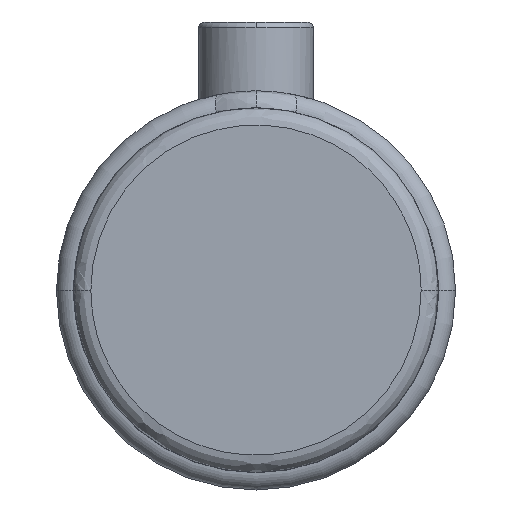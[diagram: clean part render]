
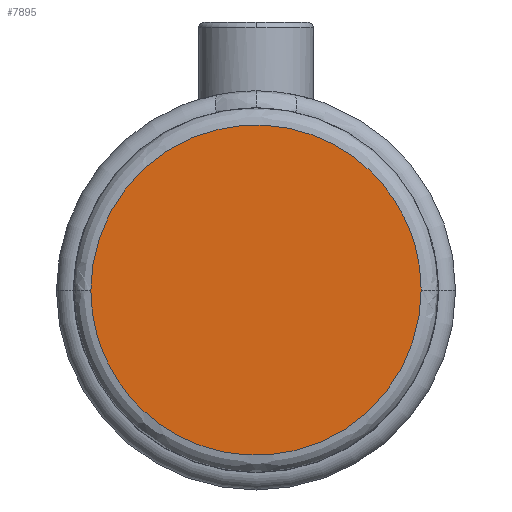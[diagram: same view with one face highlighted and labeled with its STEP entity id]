
A CAD part, top view. The second image highlights one B-rep face of the part: STEP entity #7895.
In plain terms, the highlighted planar face has unit normal (0, 0, 1).
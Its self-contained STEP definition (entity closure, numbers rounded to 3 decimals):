
#631 = CARTESIAN_POINT ( 'NONE',  ( 0., 15.875, 38. ) ) ;
#980 = EDGE_CURVE ( 'NONE', #6143, #7690, #8953, .T. ) ;
#1358 = CARTESIAN_POINT ( 'NONE',  ( -28.75, 57.5, 38. ) ) ;
#1379 = DIRECTION ( 'NONE',  ( 0., 0., 1. ) ) ;
#3132 = CARTESIAN_POINT ( 'NONE',  ( 28.75, 0., 38. ) ) ;
#3236 = CARTESIAN_POINT ( 'NONE',  ( -28.75, -57.5, 38. ) ) ;
#3515 = EDGE_CURVE ( 'NONE', #7690, #6143, #7473, .T. ) ;
#3944 = CARTESIAN_POINT ( 'NONE',  ( 28.75, 0., 38. ) ) ;
#4308 = CARTESIAN_POINT ( 'NONE',  ( -28.75, 0., 38. ) ) ;
#5405 = PLANE ( 'NONE',  #5738 ) ;
#5738 = AXIS2_PLACEMENT_3D ( 'NONE', #631, #1379, #6442 ) ;
#6143 = VERTEX_POINT ( 'NONE', #4308 ) ;
#6185 = ORIENTED_EDGE ( 'NONE', *, *, #980, .F. ) ;
#6442 = DIRECTION ( 'NONE',  ( 0., -1., 0. ) ) ;
#6802 = CARTESIAN_POINT ( 'NONE',  ( 28.75, 0., 38. ) ) ;
#7125 = CARTESIAN_POINT ( 'NONE',  ( -28.75, 0., 38. ) ) ;
#7155 = ORIENTED_EDGE ( 'NONE', *, *, #3515, .F. ) ;
#7473 =( BOUNDED_CURVE ( )  B_SPLINE_CURVE ( 3, ( #6802, #7538, #3236, #8234 ),
 .UNSPECIFIED., .F., .T. ) 
 B_SPLINE_CURVE_WITH_KNOTS ( ( 4, 4 ),
 ( 0.25, 0.75 ),
 .UNSPECIFIED. ) 
 CURVE ( )  GEOMETRIC_REPRESENTATION_ITEM ( )  RATIONAL_B_SPLINE_CURVE ( ( 1., 0.333, 0.333, 1. ) ) 
 REPRESENTATION_ITEM ( '' )  );
#7538 = CARTESIAN_POINT ( 'NONE',  ( 28.75, -57.5, 38. ) ) ;
#7690 = VERTEX_POINT ( 'NONE', #3132 ) ;
#7895 = ADVANCED_FACE ( 'NONE', ( #8737 ), #5405, .T. ) ;
#8139 = EDGE_LOOP ( 'NONE', ( #7155, #6185 ) ) ;
#8234 = CARTESIAN_POINT ( 'NONE',  ( -28.75, 0., 38. ) ) ;
#8719 = CARTESIAN_POINT ( 'NONE',  ( 28.75, 57.5, 38. ) ) ;
#8737 = FACE_OUTER_BOUND ( 'NONE', #8139, .T. ) ;
#8953 =( BOUNDED_CURVE ( )  B_SPLINE_CURVE ( 3, ( #7125, #1358, #8719, #3944 ),
 .UNSPECIFIED., .F., .F. ) 
 B_SPLINE_CURVE_WITH_KNOTS ( ( 4, 4 ),
 ( 0.75, 1.25 ),
 .UNSPECIFIED. ) 
 CURVE ( )  GEOMETRIC_REPRESENTATION_ITEM ( )  RATIONAL_B_SPLINE_CURVE ( ( 1., 0.333, 0.333, 1. ) ) 
 REPRESENTATION_ITEM ( '' )  );
